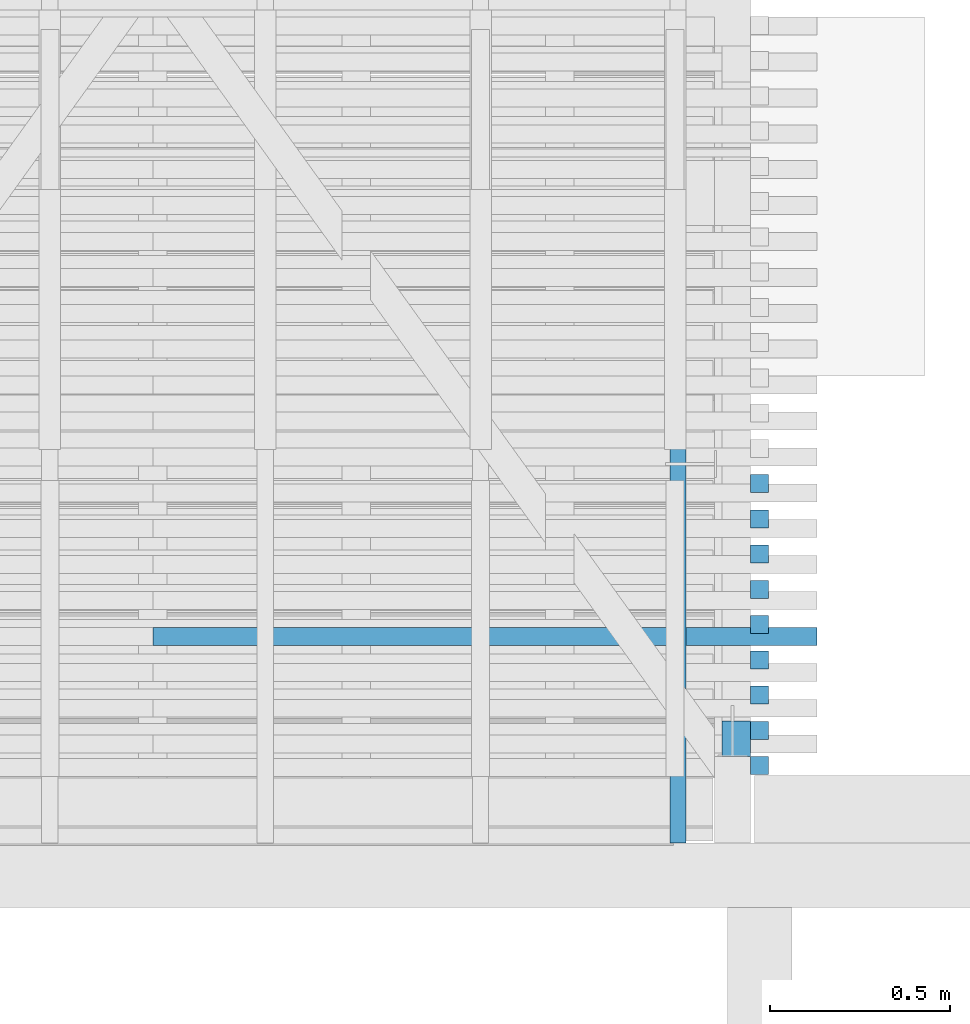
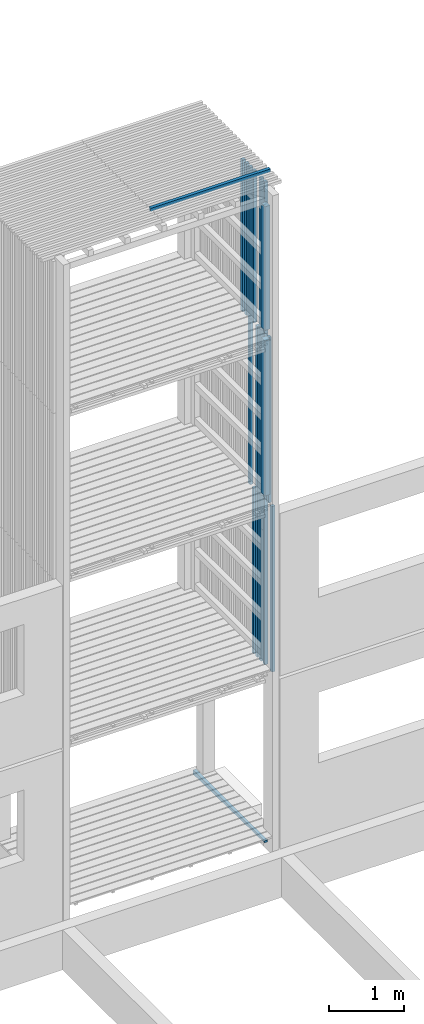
# One storey, part 19 of 182: 20 beams.
"""IFC2X3 building model written with IfcOpenShell, lengths in metres."""

from ifc_helpers import new_model, si_unit, frame, origin, place, context, project, spatial, faceted_brep, element, save


model = new_model("IFC2X3")

# Units and contexts
model_context = context("Model", 3, precision=1e-06, world=origin())
ifc_project = project(units=[si_unit("LENGTHUNIT", "METRE"), si_unit("PLANEANGLEUNIT", "RADIAN")], contexts=[model_context])

# Site, building, storey
site = spatial("IfcSite", under=ifc_project, CompositionType="ELEMENT")
building = spatial("IfcBuilding", under=site, CompositionType="ELEMENT")
storey = spatial("IfcBuildingStorey", under=building, Name="vs", CompositionType="ELEMENT", Elevation=-0.85)

# Beams
placement = place(None, origin())
beam_1_placement = place(placement, frame((6.66919731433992, 11.274168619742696, 7.974999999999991), z_axis=(-1.0, 0.0, 0.0), x_axis=(0.0, 0.0, 1.0)))
element("IfcBeam", 1, at=beam_1_placement, inside=storey, Name="Bardage", context=model_context, shape_type="Brep", body=[
    faceted_brep([(2.479999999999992, -0.025000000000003, 0.024999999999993), (2.479999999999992, -0.025000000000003, -0.025000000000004), (2.479999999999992, 0.024999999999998, -0.025000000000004), (2.479999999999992, 0.024999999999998, 0.024999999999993), (0.0, 0.024999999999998, 0.024999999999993), (0.0, -0.025000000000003, 0.024999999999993), (2.479999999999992, -0.025000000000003, 0.024999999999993), (2.479999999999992, 0.024999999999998, 0.024999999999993), (0.0, -0.025000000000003, 0.024999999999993), (0.0, 0.024999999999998, 0.024999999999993), (0.0, 0.024999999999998, -0.025000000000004), (0.0, -0.025000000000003, -0.025000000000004), (0.0, 0.024999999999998, -0.025000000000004), (0.0, 0.024999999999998, 0.024999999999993), (2.479999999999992, 0.024999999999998, 0.024999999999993), (2.479999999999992, 0.024999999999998, -0.025000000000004), (0.0, -0.025000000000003, -0.025000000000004), (0.0, 0.024999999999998, -0.025000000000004), (2.479999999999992, 0.024999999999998, -0.025000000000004), (2.479999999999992, -0.025000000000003, -0.025000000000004), (2.479999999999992, -0.025000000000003, 0.024999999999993), (0.0, -0.025000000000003, 0.024999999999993), (0.0, -0.025000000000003, -0.025000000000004), (2.479999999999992, -0.025000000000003, -0.025000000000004)], [[[0, 1, 2, 3]], [[4, 5, 6, 7]], [[8, 9, 10, 11]], [[12, 13, 14, 15]], [[16, 17, 18, 19]], [[20, 21, 22, 23]]]),
])
beam_2_placement = place(placement, frame((6.66919731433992, 11.175986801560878, 7.974999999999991), z_axis=(-1.0, 0.0, 0.0), x_axis=(0.0, 0.0, 1.0)))
element("IfcBeam", 2, at=beam_2_placement, inside=storey, Name="Bardage", context=model_context, shape_type="Brep", body=[
    faceted_brep([(2.479999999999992, -0.025000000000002, 0.024999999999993), (2.479999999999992, -0.025000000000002, -0.025000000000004), (2.479999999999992, 0.024999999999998, -0.025000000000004), (2.479999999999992, 0.024999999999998, 0.024999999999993), (0.0, 0.024999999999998, 0.024999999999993), (0.0, -0.025000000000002, 0.024999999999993), (2.479999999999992, -0.025000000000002, 0.024999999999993), (2.479999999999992, 0.024999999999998, 0.024999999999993), (0.0, -0.025000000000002, 0.024999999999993), (0.0, 0.024999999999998, 0.024999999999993), (0.0, 0.024999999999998, -0.025000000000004), (0.0, -0.025000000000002, -0.025000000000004), (0.0, 0.024999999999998, -0.025000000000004), (0.0, 0.024999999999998, 0.024999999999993), (2.479999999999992, 0.024999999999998, 0.024999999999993), (2.479999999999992, 0.024999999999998, -0.025000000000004), (0.0, -0.025000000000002, -0.025000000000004), (0.0, 0.024999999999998, -0.025000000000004), (2.479999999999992, 0.024999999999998, -0.025000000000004), (2.479999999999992, -0.025000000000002, -0.025000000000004), (2.479999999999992, -0.025000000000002, 0.024999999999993), (0.0, -0.025000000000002, 0.024999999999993), (0.0, -0.025000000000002, -0.025000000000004), (2.479999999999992, -0.025000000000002, -0.025000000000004)], [[[0, 1, 2, 3]], [[4, 5, 6, 7]], [[8, 9, 10, 11]], [[12, 13, 14, 15]], [[16, 17, 18, 19]], [[20, 21, 22, 23]]]),
])
beam_3_placement = place(placement, frame((6.66919731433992, 10.979623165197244, 7.974999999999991), z_axis=(-1.0, 0.0, 0.0), x_axis=(0.0, 1e-15, 1.0)))
element("IfcBeam", 3, at=beam_3_placement, inside=storey, Name="Bardage", context=model_context, shape_type="Brep", body=[
    faceted_brep([(2.479999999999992, -0.025000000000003, 0.024999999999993), (2.479999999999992, -0.025000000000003, -0.025000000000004), (2.479999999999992, 0.024999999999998, -0.025000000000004), (2.479999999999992, 0.024999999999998, 0.024999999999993), (0.0, 0.025000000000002, 0.024999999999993), (0.0, -0.024999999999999, 0.024999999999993), (2.479999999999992, -0.025000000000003, 0.024999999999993), (2.479999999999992, 0.024999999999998, 0.024999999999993), (0.0, -0.024999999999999, 0.024999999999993), (0.0, 0.025000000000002, 0.024999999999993), (0.0, 0.025000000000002, -0.025000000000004), (0.0, -0.024999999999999, -0.025000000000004), (0.0, 0.025000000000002, -0.025000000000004), (0.0, 0.025000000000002, 0.024999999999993), (2.479999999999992, 0.024999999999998, 0.024999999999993), (2.479999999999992, 0.024999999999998, -0.025000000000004), (0.0, -0.024999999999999, -0.025000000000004), (0.0, 0.025000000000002, -0.025000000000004), (2.479999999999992, 0.024999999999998, -0.025000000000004), (2.479999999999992, -0.025000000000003, -0.025000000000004), (2.479999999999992, -0.025000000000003, 0.024999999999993), (0.0, -0.024999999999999, 0.024999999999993), (0.0, -0.024999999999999, -0.025000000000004), (2.479999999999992, -0.025000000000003, -0.025000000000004)], [[[0, 1, 2, 3]], [[4, 5, 6, 7]], [[8, 9, 10, 11]], [[12, 13, 14, 15]], [[16, 17, 18, 19]], [[20, 21, 22, 23]]]),
])
beam_4_placement = place(placement, frame((6.66919731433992, 10.881441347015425, 2.575000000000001), z_axis=(-1.0, 0.0, 0.0), x_axis=(0.0, 0.0, 1.0)))
element("IfcBeam", 4, at=beam_4_placement, inside=storey, Name="Bardage", context=model_context, shape_type="Brep", body=[
    faceted_brep([(0.0, -0.024999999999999, 0.024999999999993), (0.0, 0.025000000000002, 0.024999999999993), (0.0, 0.025000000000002, -0.025000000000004), (0.0, -0.024999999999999, -0.025000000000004), (2.699961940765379, 0.025000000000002, -0.025000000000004), (2.699961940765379, 0.025000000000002, 0.024999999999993), (2.699961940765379, -0.024999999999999, 0.024999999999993), (2.699961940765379, -0.024999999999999, -0.025000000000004), (0.0, -0.024999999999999, -0.025000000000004), (0.0, 0.025000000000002, -0.025000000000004), (2.699961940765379, 0.025000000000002, -0.025000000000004), (2.699961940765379, -0.024999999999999, -0.025000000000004), (2.699961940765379, 0.025000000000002, -0.025000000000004), (0.0, 0.025000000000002, -0.025000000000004), (0.0, 0.025000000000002, 0.024999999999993), (2.699961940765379, 0.025000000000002, 0.024999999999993), (2.699961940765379, 0.025000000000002, 0.024999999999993), (0.0, 0.025000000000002, 0.024999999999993), (0.0, -0.024999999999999, 0.024999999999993), (2.699961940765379, -0.024999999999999, 0.024999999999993), (2.699961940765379, -0.024999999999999, 0.024999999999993), (0.0, -0.024999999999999, 0.024999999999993), (0.0, -0.024999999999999, -0.025000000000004), (2.699961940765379, -0.024999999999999, -0.025000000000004)], [[[0, 1, 2, 3]], [[4, 5, 6, 7]], [[8, 9, 10, 11]], [[12, 13, 14, 15]], [[16, 17, 18, 19]], [[20, 21, 22, 23]]]),
])
beam_5_placement = place(placement, frame((6.66919731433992, 11.07780498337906, 5.274999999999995), z_axis=(-1.0, 0.0, 0.0), x_axis=(0.0, 0.0, 1.0)))
element("IfcBeam", 5, at=beam_5_placement, inside=storey, Name="Bardage", context=model_context, shape_type="Brep", body=[
    faceted_brep([(1e-15, -0.024999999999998, 0.024999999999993), (1e-15, 0.024999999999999, 0.024999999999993), (1e-15, 0.024999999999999, -0.025000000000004), (1e-15, -0.024999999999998, -0.025000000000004), (2.699999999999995, -0.024999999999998, -0.025000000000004), (2.699999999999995, 0.024999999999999, -0.025000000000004), (2.699999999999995, 0.024999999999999, 0.024999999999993), (2.699999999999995, -0.024999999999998, 0.024999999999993), (1e-15, -0.024999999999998, 0.024999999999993), (1e-15, -0.024999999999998, -0.025000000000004), (2.699999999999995, -0.024999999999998, -0.025000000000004), (2.699999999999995, -0.024999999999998, 0.024999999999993), (2.699999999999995, -0.024999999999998, -0.025000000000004), (1e-15, -0.024999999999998, -0.025000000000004), (1e-15, 0.024999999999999, -0.025000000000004), (2.699999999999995, 0.024999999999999, -0.025000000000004), (2.699999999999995, 0.024999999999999, -0.025000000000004), (1e-15, 0.024999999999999, -0.025000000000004), (1e-15, 0.024999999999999, 0.024999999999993), (2.699999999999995, 0.024999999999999, 0.024999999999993), (2.699999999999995, 0.024999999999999, 0.024999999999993), (1e-15, 0.024999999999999, 0.024999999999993), (1e-15, -0.024999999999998, 0.024999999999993), (2.699999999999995, -0.024999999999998, 0.024999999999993)], [[[0, 1, 2, 3]], [[4, 5, 6, 7]], [[8, 9, 10, 11]], [[12, 13, 14, 15]], [[16, 17, 18, 19]], [[20, 21, 22, 23]]]),
])
beam_6_placement = place(placement, frame((6.604197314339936, 10.760077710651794, 8.14699999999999), z_axis=(0.0, 1.0, 0.0), x_axis=(0.0, 0.0, 1.0)))
element("IfcBeam", 6, at=beam_6_placement, inside=storey, Name="Support bardage", context=model_context, shape_type="Brep", body=[
    faceted_brep([(2.017999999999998, 0.039999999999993, -0.050000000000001), (2.017999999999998, 0.039999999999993, 0.05), (2.017999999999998, -0.04000000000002, 0.05), (2.017999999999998, -0.04000000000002, -0.050000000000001), (1e-15, -0.04000000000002, -0.050000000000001), (1e-15, -0.04000000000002, 0.05), (1e-15, 0.039999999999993, 0.05), (1e-15, 0.039999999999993, -0.050000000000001), (1e-15, -0.04000000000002, -0.050000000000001), (1e-15, 0.039999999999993, -0.050000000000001), (2.017999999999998, 0.039999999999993, -0.050000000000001), (2.017999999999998, -0.04000000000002, -0.050000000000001), (1e-15, -0.04000000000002, 0.05), (1e-15, -0.04000000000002, -0.050000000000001), (2.017999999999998, -0.04000000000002, -0.050000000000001), (2.017999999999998, -0.04000000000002, 0.05), (1e-15, 0.039999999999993, 0.05), (1e-15, -0.04000000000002, 0.05), (2.017999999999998, -0.04000000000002, 0.05), (2.017999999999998, 0.039999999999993, 0.05), (1e-15, 0.039999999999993, -0.050000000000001), (1e-15, 0.039999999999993, 0.05), (2.017999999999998, 0.039999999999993, 0.05), (2.017999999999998, 0.039999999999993, -0.050000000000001)], [[[0, 1, 2, 3]], [[4, 5, 6, 7]], [[8, 9, 10, 11]], [[12, 13, 14, 15]], [[16, 17, 18, 19]], [[20, 21, 22, 23]]]),
])
beam_7_placement = place(placement, frame((6.441697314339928, 10.470077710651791, -0.015599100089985), z_axis=(0.0, 0.0, 1.0), x_axis=(0.0, 1.0, 0.0)))
element("IfcBeam", 7, at=beam_7_placement, inside=storey, Name="Calage", context=model_context, shape_type="Brep", body=[
    faceted_brep([(1.91000000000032, -0.022499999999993, -0.035599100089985), (0.0, -0.022499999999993, 0.002600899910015), (0.0, 0.022500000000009, 0.002600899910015), (1.91000000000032, 0.022500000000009, -0.035599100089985), (0.0, -0.022499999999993, 0.035599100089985), (0.0, 0.022500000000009, 0.035599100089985), (0.0, 0.022500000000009, 0.002600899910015), (0.0, -0.022499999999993, 0.002600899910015), (0.0, 0.022500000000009, 0.035599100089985), (0.0, -0.022499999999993, 0.035599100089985), (1.91000000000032, -0.022499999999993, 0.035599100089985), (1.91000000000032, 0.022500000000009, 0.035599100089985), (1.91000000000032, -0.022499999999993, 0.035599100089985), (0.0, -0.022499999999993, 0.035599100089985), (0.0, -0.022499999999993, 0.002600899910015), (1.91000000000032, -0.022499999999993, -0.035599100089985), (1.91000000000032, 0.022500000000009, 0.035599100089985), (1.91000000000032, -0.022499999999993, 0.035599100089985), (1.91000000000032, -0.022499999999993, -0.035599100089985), (1.91000000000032, 0.022500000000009, -0.035599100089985), (0.0, 0.022500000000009, 0.002600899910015), (0.0, 0.022500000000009, 0.035599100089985), (1.91000000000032, 0.022500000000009, 0.035599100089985), (1.91000000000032, 0.022500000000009, -0.035599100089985)], [[[0, 1, 2, 3]], [[4, 5, 6, 7]], [[8, 9, 10, 11]], [[12, 13, 14, 15]], [[16, 17, 18, 19]], [[20, 21, 22, 23]]]),
])
beam_8_placement = place(placement, frame((6.66919731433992, 11.175986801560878, 2.575000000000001), z_axis=(-1.0, 0.0, 0.0), x_axis=(0.0, 0.0, 1.0)))
element("IfcBeam", 8, at=beam_8_placement, inside=storey, Name="Bardage", context=model_context, shape_type="Brep", body=[
    faceted_brep([(0.0, -0.025000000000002, 0.024999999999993), (0.0, 0.024999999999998, 0.024999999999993), (0.0, 0.024999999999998, -0.025000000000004), (0.0, -0.025000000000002, -0.025000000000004), (2.699961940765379, 0.025000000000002, -0.025000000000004), (2.699961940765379, 0.025000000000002, 0.024999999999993), (2.699961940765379, -0.025000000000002, 0.024999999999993), (2.699961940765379, -0.025000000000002, -0.025000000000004), (0.0, -0.025000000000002, -0.025000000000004), (0.0, 0.024999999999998, -0.025000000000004), (2.699961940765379, 0.025000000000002, -0.025000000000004), (2.699961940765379, -0.025000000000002, -0.025000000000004), (2.699961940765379, 0.025000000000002, -0.025000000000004), (0.0, 0.024999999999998, -0.025000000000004), (0.0, 0.024999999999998, 0.024999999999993), (2.699961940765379, 0.025000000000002, 0.024999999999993), (2.699961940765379, 0.025000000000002, 0.024999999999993), (0.0, 0.024999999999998, 0.024999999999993), (0.0, -0.025000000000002, 0.024999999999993), (2.699961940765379, -0.025000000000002, 0.024999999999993), (2.699961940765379, -0.025000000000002, 0.024999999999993), (0.0, -0.025000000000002, 0.024999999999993), (0.0, -0.025000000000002, -0.025000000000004), (2.699961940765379, -0.025000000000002, -0.025000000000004)], [[[0, 1, 2, 3]], [[4, 5, 6, 7]], [[8, 9, 10, 11]], [[12, 13, 14, 15]], [[16, 17, 18, 19]], [[20, 21, 22, 23]]]),
])
beam_9_placement = place(placement, frame((6.66919731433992, 11.274168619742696, 5.274999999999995), z_axis=(-1.0, 0.0, 0.0), x_axis=(0.0, 0.0, 1.0)))
element("IfcBeam", 9, at=beam_9_placement, inside=storey, Name="Bardage", context=model_context, shape_type="Brep", body=[
    faceted_brep([(1e-15, -0.025000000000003, 0.024999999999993), (1e-15, 0.024999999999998, 0.024999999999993), (1e-15, 0.024999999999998, -0.025000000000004), (1e-15, -0.025000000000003, -0.025000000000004), (2.699999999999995, -0.025000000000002, -0.025000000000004), (2.699999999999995, 0.024999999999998, -0.025000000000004), (2.699999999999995, 0.024999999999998, 0.024999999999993), (2.699999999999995, -0.025000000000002, 0.024999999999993), (1e-15, -0.025000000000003, 0.024999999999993), (1e-15, -0.025000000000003, -0.025000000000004), (2.699999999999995, -0.025000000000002, -0.025000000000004), (2.699999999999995, -0.025000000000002, 0.024999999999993), (2.699999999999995, -0.025000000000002, -0.025000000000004), (1e-15, -0.025000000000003, -0.025000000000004), (1e-15, 0.024999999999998, -0.025000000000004), (2.699999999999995, 0.024999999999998, -0.025000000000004), (2.699999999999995, 0.024999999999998, -0.025000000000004), (1e-15, 0.024999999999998, -0.025000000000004), (1e-15, 0.024999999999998, 0.024999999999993), (2.699999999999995, 0.024999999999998, 0.024999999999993), (2.699999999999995, 0.024999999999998, 0.024999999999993), (1e-15, 0.024999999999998, 0.024999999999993), (1e-15, -0.025000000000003, 0.024999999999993), (2.699999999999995, -0.025000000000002, 0.024999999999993)], [[[0, 1, 2, 3]], [[4, 5, 6, 7]], [[8, 9, 10, 11]], [[12, 13, 14, 15]], [[16, 17, 18, 19]], [[20, 21, 22, 23]]]),
])
beam_10_placement = place(placement, frame((6.66919731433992, 11.372350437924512, 7.974999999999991), z_axis=(-1.0, 0.0, 0.0), x_axis=(0.0, 0.0, 1.0)))
element("IfcBeam", 10, at=beam_10_placement, inside=storey, Name="Bardage", context=model_context, shape_type="Brep", body=[
    faceted_brep([(2.479999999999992, -0.024999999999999, 0.024999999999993), (2.479999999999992, -0.024999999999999, -0.025000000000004), (2.479999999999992, 0.024999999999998, -0.025000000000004), (2.479999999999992, 0.024999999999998, 0.024999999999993), (0.0, 0.024999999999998, 0.024999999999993), (0.0, -0.024999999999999, 0.024999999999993), (2.479999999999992, -0.024999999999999, 0.024999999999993), (2.479999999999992, 0.024999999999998, 0.024999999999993), (0.0, -0.024999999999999, 0.024999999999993), (0.0, 0.024999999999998, 0.024999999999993), (0.0, 0.024999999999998, -0.025000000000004), (0.0, -0.024999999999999, -0.025000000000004), (0.0, 0.024999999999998, -0.025000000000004), (0.0, 0.024999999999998, 0.024999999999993), (2.479999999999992, 0.024999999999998, 0.024999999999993), (2.479999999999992, 0.024999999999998, -0.025000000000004), (0.0, -0.024999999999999, -0.025000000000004), (0.0, 0.024999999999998, -0.025000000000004), (2.479999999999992, 0.024999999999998, -0.025000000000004), (2.479999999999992, -0.024999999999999, -0.025000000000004), (2.479999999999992, -0.024999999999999, 0.024999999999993), (0.0, -0.024999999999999, 0.024999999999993), (0.0, -0.024999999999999, -0.025000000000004), (2.479999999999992, -0.024999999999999, -0.025000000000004)], [[[0, 1, 2, 3]], [[4, 5, 6, 7]], [[8, 9, 10, 11]], [[12, 13, 14, 15]], [[16, 17, 18, 19]], [[20, 21, 22, 23]]]),
])
beam_11_placement = place(placement, frame((6.66919731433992, 11.47053225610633, 7.974999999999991), z_axis=(-1.0, 0.0, 0.0), x_axis=(0.0, 0.0, 1.0)))
element("IfcBeam", 11, at=beam_11_placement, inside=storey, Name="Bardage", context=model_context, shape_type="Brep", body=[
    faceted_brep([(2.479999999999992, -0.025000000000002, 0.024999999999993), (2.479999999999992, -0.025000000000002, -0.025000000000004), (2.479999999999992, 0.025000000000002, -0.025000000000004), (2.479999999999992, 0.025000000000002, 0.024999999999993), (0.0, 0.025000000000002, 0.024999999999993), (0.0, -0.025000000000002, 0.024999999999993), (2.479999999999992, -0.025000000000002, 0.024999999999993), (2.479999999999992, 0.025000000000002, 0.024999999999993), (0.0, -0.025000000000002, 0.024999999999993), (0.0, 0.025000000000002, 0.024999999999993), (0.0, 0.025000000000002, -0.025000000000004), (0.0, -0.025000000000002, -0.025000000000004), (0.0, 0.025000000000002, -0.025000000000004), (0.0, 0.025000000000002, 0.024999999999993), (2.479999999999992, 0.025000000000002, 0.024999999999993), (2.479999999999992, 0.025000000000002, -0.025000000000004), (0.0, -0.025000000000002, -0.025000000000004), (0.0, 0.025000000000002, -0.025000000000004), (2.479999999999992, 0.025000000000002, -0.025000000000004), (2.479999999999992, -0.025000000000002, -0.025000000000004), (2.479999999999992, -0.025000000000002, 0.024999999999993), (0.0, -0.025000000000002, 0.024999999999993), (0.0, -0.025000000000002, -0.025000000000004), (2.479999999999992, -0.025000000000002, -0.025000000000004)], [[[0, 1, 2, 3]], [[4, 5, 6, 7]], [[8, 9, 10, 11]], [[12, 13, 14, 15]], [[16, 17, 18, 19]], [[20, 21, 22, 23]]]),
])
beam_12_placement = place(placement, frame((6.66919731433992, 10.979623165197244, 5.274999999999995), z_axis=(-1.0, 0.0, 0.0), x_axis=(0.0, 1e-15, 1.0)))
element("IfcBeam", 12, at=beam_12_placement, inside=storey, Name="Bardage", context=model_context, shape_type="Brep", body=[
    faceted_brep([(1e-15, -0.024999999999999, 0.024999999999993), (1e-15, 0.025000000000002, 0.024999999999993), (1e-15, 0.025000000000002, -0.025000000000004), (1e-15, -0.024999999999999, -0.025000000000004), (2.699999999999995, -0.025000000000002, -0.025000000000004), (2.699999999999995, 0.024999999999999, -0.025000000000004), (2.699999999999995, 0.024999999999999, 0.024999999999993), (2.699999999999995, -0.025000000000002, 0.024999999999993), (1e-15, -0.024999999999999, 0.024999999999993), (1e-15, -0.024999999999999, -0.025000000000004), (2.699999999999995, -0.025000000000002, -0.025000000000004), (2.699999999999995, -0.025000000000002, 0.024999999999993), (2.699999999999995, -0.025000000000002, -0.025000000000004), (1e-15, -0.024999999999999, -0.025000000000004), (1e-15, 0.025000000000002, -0.025000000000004), (2.699999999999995, 0.024999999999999, -0.025000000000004), (2.699999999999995, 0.024999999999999, -0.025000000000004), (1e-15, 0.025000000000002, -0.025000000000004), (1e-15, 0.025000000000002, 0.024999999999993), (2.699999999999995, 0.024999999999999, 0.024999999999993), (2.699999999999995, 0.024999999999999, 0.024999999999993), (1e-15, 0.025000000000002, 0.024999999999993), (1e-15, -0.024999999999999, 0.024999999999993), (2.699999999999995, -0.025000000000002, 0.024999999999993)], [[[0, 1, 2, 3]], [[4, 5, 6, 7]], [[8, 9, 10, 11]], [[12, 13, 14, 15]], [[16, 17, 18, 19]], [[20, 21, 22, 23]]]),
])
beam_13_placement = place(placement, frame((6.604197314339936, 10.760077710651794, 5.446999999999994), z_axis=(0.0, 1.0, 0.0), x_axis=(0.0, 0.0, 1.0)))
element("IfcBeam", 13, at=beam_13_placement, inside=storey, Name="Support bardage", context=model_context, shape_type="Brep", body=[
    faceted_brep([(2.527999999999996, -0.04000000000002, -0.050000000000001), (2.527999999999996, 0.039999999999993, -0.050000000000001), (2.527999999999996, 0.039999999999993, 0.05), (2.527999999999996, -0.04000000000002, 0.05), (-1e-15, -0.04000000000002, 0.05), (-1e-15, -0.04000000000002, -0.050000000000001), (2.527999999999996, -0.04000000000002, -0.050000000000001), (2.527999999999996, -0.04000000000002, 0.05), (-1e-15, -0.04000000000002, -0.050000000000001), (-1e-15, -0.04000000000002, 0.05), (-1e-15, 0.039999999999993, 0.05), (-1e-15, 0.039999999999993, -0.050000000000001), (2.527999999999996, -0.04000000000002, -0.050000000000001), (-1e-15, -0.04000000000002, -0.050000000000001), (-1e-15, 0.039999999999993, -0.050000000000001), (2.527999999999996, 0.039999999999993, -0.050000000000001), (2.527999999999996, 0.039999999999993, -0.050000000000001), (-1e-15, 0.039999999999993, -0.050000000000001), (-1e-15, 0.039999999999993, 0.05), (2.527999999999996, 0.039999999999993, 0.05), (2.527999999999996, 0.039999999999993, 0.05), (-1e-15, 0.039999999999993, 0.05), (-1e-15, -0.04000000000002, 0.05), (2.527999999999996, -0.04000000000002, 0.05)], [[[0, 1, 2, 3]], [[4, 5, 6, 7]], [[8, 9, 10, 11]], [[12, 13, 14, 15]], [[16, 17, 18, 19]], [[20, 21, 22, 23]]]),
])
beam_14_placement = place(placement, frame((6.66919731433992, 10.78325952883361, 5.274999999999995), z_axis=(-1.0, 0.0, 0.0), x_axis=(0.0, 0.0, 1.0)))
element("IfcBeam", 14, at=beam_14_placement, inside=storey, Name="Bardage", context=model_context, shape_type="Brep", body=[
    faceted_brep([(1e-15, -0.025000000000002, 0.024999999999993), (1e-15, 0.024999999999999, 0.024999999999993), (1e-15, 0.024999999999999, -0.025000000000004), (1e-15, -0.025000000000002, -0.025000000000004), (2.699999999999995, -0.025000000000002, -0.025000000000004), (2.699999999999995, 0.024999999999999, -0.025000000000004), (2.699999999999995, 0.024999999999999, 0.024999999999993), (2.699999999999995, -0.025000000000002, 0.024999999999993), (1e-15, -0.025000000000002, 0.024999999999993), (1e-15, -0.025000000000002, -0.025000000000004), (2.699999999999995, -0.025000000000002, -0.025000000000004), (2.699999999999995, -0.025000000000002, 0.024999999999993), (2.699999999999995, -0.025000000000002, -0.025000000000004), (1e-15, -0.025000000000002, -0.025000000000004), (1e-15, 0.024999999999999, -0.025000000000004), (2.699999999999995, 0.024999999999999, -0.025000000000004), (2.699999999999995, 0.024999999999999, -0.025000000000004), (1e-15, 0.024999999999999, -0.025000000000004), (1e-15, 0.024999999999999, 0.024999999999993), (2.699999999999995, 0.024999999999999, 0.024999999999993), (2.699999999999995, 0.024999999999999, 0.024999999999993), (1e-15, 0.024999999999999, 0.024999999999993), (1e-15, -0.025000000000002, 0.024999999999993), (2.699999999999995, -0.025000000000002, 0.024999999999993)], [[[0, 1, 2, 3]], [[4, 5, 6, 7]], [[8, 9, 10, 11]], [[12, 13, 14, 15]], [[16, 17, 18, 19]], [[20, 21, 22, 23]]]),
])
beam_15_placement = place(placement, frame((6.66919731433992, 10.881441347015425, 7.974999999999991), z_axis=(-1.0, 0.0, 0.0), x_axis=(0.0, 0.0, 1.0)))
element("IfcBeam", 15, at=beam_15_placement, inside=storey, Name="Bardage", context=model_context, shape_type="Brep", body=[
    faceted_brep([(2.479999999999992, -0.024999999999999, 0.024999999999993), (2.479999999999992, -0.024999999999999, -0.025000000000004), (2.479999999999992, 0.025000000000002, -0.025000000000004), (2.479999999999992, 0.025000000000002, 0.024999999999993), (0.0, 0.025000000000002, 0.024999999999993), (0.0, -0.024999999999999, 0.024999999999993), (2.479999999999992, -0.024999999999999, 0.024999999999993), (2.479999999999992, 0.025000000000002, 0.024999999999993), (0.0, -0.024999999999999, 0.024999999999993), (0.0, 0.025000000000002, 0.024999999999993), (0.0, 0.025000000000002, -0.025000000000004), (0.0, -0.024999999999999, -0.025000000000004), (0.0, 0.025000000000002, -0.025000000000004), (0.0, 0.025000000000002, 0.024999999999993), (2.479999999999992, 0.025000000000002, 0.024999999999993), (2.479999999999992, 0.025000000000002, -0.025000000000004), (0.0, -0.024999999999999, -0.025000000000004), (0.0, 0.025000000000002, -0.025000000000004), (2.479999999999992, 0.025000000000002, -0.025000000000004), (2.479999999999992, -0.024999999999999, -0.025000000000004), (2.479999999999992, -0.024999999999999, 0.024999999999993), (0.0, -0.024999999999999, 0.024999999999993), (0.0, -0.024999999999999, -0.025000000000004), (2.479999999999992, -0.024999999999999, -0.025000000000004)], [[[0, 1, 2, 3]], [[4, 5, 6, 7]], [[8, 9, 10, 11]], [[12, 13, 14, 15]], [[16, 17, 18, 19]], [[20, 21, 22, 23]]]),
])
beam_16_placement = place(placement, frame((6.66919731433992, 10.881441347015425, 5.274999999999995), z_axis=(-1.0, 0.0, 0.0), x_axis=(0.0, 0.0, 1.0)))
element("IfcBeam", 16, at=beam_16_placement, inside=storey, Name="Bardage", context=model_context, shape_type="Brep", body=[
    faceted_brep([(1e-15, -0.024999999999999, 0.024999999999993), (1e-15, 0.025000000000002, 0.024999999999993), (1e-15, 0.025000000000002, -0.025000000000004), (1e-15, -0.024999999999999, -0.025000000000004), (2.699999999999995, -0.024999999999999, -0.025000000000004), (2.699999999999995, 0.025000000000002, -0.025000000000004), (2.699999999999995, 0.025000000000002, 0.024999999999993), (2.699999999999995, -0.024999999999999, 0.024999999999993), (1e-15, -0.024999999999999, 0.024999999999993), (1e-15, -0.024999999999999, -0.025000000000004), (2.699999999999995, -0.024999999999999, -0.025000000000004), (2.699999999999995, -0.024999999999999, 0.024999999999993), (2.699999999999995, -0.024999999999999, -0.025000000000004), (1e-15, -0.024999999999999, -0.025000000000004), (1e-15, 0.025000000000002, -0.025000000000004), (2.699999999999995, 0.025000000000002, -0.025000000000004), (2.699999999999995, 0.025000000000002, -0.025000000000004), (1e-15, 0.025000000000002, -0.025000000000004), (1e-15, 0.025000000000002, 0.024999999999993), (2.699999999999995, 0.025000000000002, 0.024999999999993), (2.699999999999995, 0.025000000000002, 0.024999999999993), (1e-15, 0.025000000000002, 0.024999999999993), (1e-15, -0.024999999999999, 0.024999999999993), (2.699999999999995, -0.024999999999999, 0.024999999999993)], [[[0, 1, 2, 3]], [[4, 5, 6, 7]], [[8, 9, 10, 11]], [[12, 13, 14, 15]], [[16, 17, 18, 19]], [[20, 21, 22, 23]]]),
])
beam_17_placement = place(placement, frame((6.66919731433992, 10.979623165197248, 2.575000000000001), z_axis=(-1.0, 0.0, 0.0), x_axis=(0.0, 0.0, 1.0)))
element("IfcBeam", 17, at=beam_17_placement, inside=storey, Name="Bardage", context=model_context, shape_type="Brep", body=[
    faceted_brep([(0.0, -0.025000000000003, 0.024999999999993), (0.0, 0.024999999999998, 0.024999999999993), (0.0, 0.024999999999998, -0.025000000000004), (0.0, -0.025000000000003, -0.025000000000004), (2.699961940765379, 0.024999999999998, -0.025000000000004), (2.699961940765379, 0.024999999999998, 0.024999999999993), (2.699961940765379, -0.025000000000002, 0.024999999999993), (2.699961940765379, -0.025000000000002, -0.025000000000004), (0.0, -0.025000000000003, -0.025000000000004), (0.0, 0.024999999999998, -0.025000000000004), (2.699961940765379, 0.024999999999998, -0.025000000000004), (2.699961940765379, -0.025000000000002, -0.025000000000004), (2.699961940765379, 0.024999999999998, -0.025000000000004), (0.0, 0.024999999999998, -0.025000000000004), (0.0, 0.024999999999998, 0.024999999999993), (2.699961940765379, 0.024999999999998, 0.024999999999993), (2.699961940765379, 0.024999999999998, 0.024999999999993), (0.0, 0.024999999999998, 0.024999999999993), (0.0, -0.025000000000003, 0.024999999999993), (2.699961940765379, -0.025000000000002, 0.024999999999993), (2.699961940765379, -0.025000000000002, 0.024999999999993), (0.0, -0.025000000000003, 0.024999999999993), (0.0, -0.025000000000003, -0.025000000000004), (2.699961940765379, -0.025000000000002, -0.025000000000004)], [[[0, 1, 2, 3]], [[4, 5, 6, 7]], [[8, 9, 10, 11]], [[12, 13, 14, 15]], [[16, 17, 18, 19]], [[20, 21, 22, 23]]]),
])
beam_18_placement = place(placement, frame((6.66919731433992, 11.07780498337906, 2.575000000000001), z_axis=(-1.0, 0.0, 0.0), x_axis=(0.0, 0.0, 1.0)))
element("IfcBeam", 18, at=beam_18_placement, inside=storey, Name="Bardage", context=model_context, shape_type="Brep", body=[
    faceted_brep([(0.0, -0.024999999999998, 0.024999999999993), (0.0, 0.024999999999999, 0.024999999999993), (0.0, 0.024999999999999, -0.025000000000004), (0.0, -0.024999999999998, -0.025000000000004), (2.699961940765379, 0.024999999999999, -0.025000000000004), (2.699961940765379, 0.024999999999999, 0.024999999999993), (2.699961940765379, -0.024999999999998, 0.024999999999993), (2.699961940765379, -0.024999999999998, -0.025000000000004), (0.0, -0.024999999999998, -0.025000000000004), (0.0, 0.024999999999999, -0.025000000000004), (2.699961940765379, 0.024999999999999, -0.025000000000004), (2.699961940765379, -0.024999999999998, -0.025000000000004), (2.699961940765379, 0.024999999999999, -0.025000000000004), (0.0, 0.024999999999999, -0.025000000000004), (0.0, 0.024999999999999, 0.024999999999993), (2.699961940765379, 0.024999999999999, 0.024999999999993), (2.699961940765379, 0.024999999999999, 0.024999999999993), (0.0, 0.024999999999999, 0.024999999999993), (0.0, -0.024999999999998, 0.024999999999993), (2.699961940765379, -0.024999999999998, 0.024999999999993), (2.699961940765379, -0.024999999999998, 0.024999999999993), (0.0, -0.024999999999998, 0.024999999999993), (0.0, -0.024999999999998, -0.025000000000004), (2.699961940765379, -0.024999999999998, -0.025000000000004)], [[[0, 1, 2, 3]], [[4, 5, 6, 7]], [[8, 9, 10, 11]], [[12, 13, 14, 15]], [[16, 17, 18, 19]], [[20, 21, 22, 23]]]),
])
beam_19_placement = place(placement, frame((6.66919731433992, 10.685077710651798, 2.575000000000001), z_axis=(-1.0, 0.0, 0.0), x_axis=(0.0, 0.0, 1.0)))
element("IfcBeam", 19, at=beam_19_placement, inside=storey, Name="Bardage", context=model_context, shape_type="Brep", body=[
    faceted_brep([(0.0, -0.025000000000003, 0.024999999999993), (0.0, 0.024999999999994, 0.024999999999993), (0.0, 0.024999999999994, -0.025000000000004), (0.0, -0.025000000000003, -0.025000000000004), (2.699961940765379, 0.024999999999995, -0.025000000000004), (2.699961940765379, 0.024999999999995, 0.024999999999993), (2.699961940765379, -0.025000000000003, 0.024999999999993), (2.699961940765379, -0.025000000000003, -0.025000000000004), (0.0, -0.025000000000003, -0.025000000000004), (0.0, 0.024999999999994, -0.025000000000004), (2.699961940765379, 0.024999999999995, -0.025000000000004), (2.699961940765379, -0.025000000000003, -0.025000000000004), (2.699961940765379, 0.024999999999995, -0.025000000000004), (0.0, 0.024999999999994, -0.025000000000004), (0.0, 0.024999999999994, 0.024999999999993), (2.699961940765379, 0.024999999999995, 0.024999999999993), (2.699961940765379, 0.024999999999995, 0.024999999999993), (0.0, 0.024999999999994, 0.024999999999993), (0.0, -0.025000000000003, 0.024999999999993), (2.699961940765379, -0.025000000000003, 0.024999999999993), (2.699961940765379, -0.025000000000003, 0.024999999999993), (0.0, -0.025000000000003, 0.024999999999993), (0.0, -0.025000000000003, -0.025000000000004), (2.699961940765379, -0.025000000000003, -0.025000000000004)], [[[0, 1, 2, 3]], [[4, 5, 6, 7]], [[8, 9, 10, 11]], [[12, 13, 14, 15]], [[16, 17, 18, 19]], [[20, 21, 22, 23]]]),
])
beam_20_placement = place(placement, frame((6.829197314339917, 11.045077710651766, 10.47999999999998), z_axis=(0.0, 0.0, 1.0), x_axis=(-1.0, 0.0, 0.0)))
element("IfcBeam", 20, at=beam_20_placement, inside=storey, Name="Bardage", context=model_context, shape_type="Brep", body=[
    faceted_brep([(-3e-15, 0.025000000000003, 0.025000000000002), (-3e-15, -0.024999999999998, 0.025000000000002), (1.849999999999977, -0.025000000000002, 0.025000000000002), (1.849999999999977, 0.025000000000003, 0.025000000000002), (1.849999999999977, -0.025000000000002, 0.025000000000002), (-3e-15, -0.024999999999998, 0.025000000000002), (-3e-15, -0.024999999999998, -0.024999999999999), (1.849999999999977, -0.025000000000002, -0.024999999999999), (-3e-15, -0.024999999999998, 0.025000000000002), (-3e-15, 0.025000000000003, 0.025000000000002), (-3e-15, 0.025000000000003, -0.024999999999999), (-3e-15, -0.024999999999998, -0.024999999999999), (-3e-15, 0.025000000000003, -0.024999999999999), (-3e-15, 0.025000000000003, 0.025000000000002), (1.849999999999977, 0.025000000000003, 0.025000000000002), (1.849999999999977, 0.025000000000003, -0.024999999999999), (1.849999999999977, -0.025000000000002, -0.024999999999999), (-3e-15, -0.024999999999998, -0.024999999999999), (-3e-15, 0.025000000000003, -0.024999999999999), (1.849999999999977, 0.025000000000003, -0.024999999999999), (1.849999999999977, -0.025000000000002, 0.025000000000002), (1.849999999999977, -0.025000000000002, -0.024999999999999), (1.849999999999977, 0.025000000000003, -0.024999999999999), (1.849999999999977, 0.025000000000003, 0.025000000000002)], [[[0, 1, 2, 3]], [[4, 5, 6, 7]], [[8, 9, 10, 11]], [[12, 13, 14, 15]], [[16, 17, 18, 19]], [[20, 21, 22, 23]]]),
])

save(model, "model.ifc")
